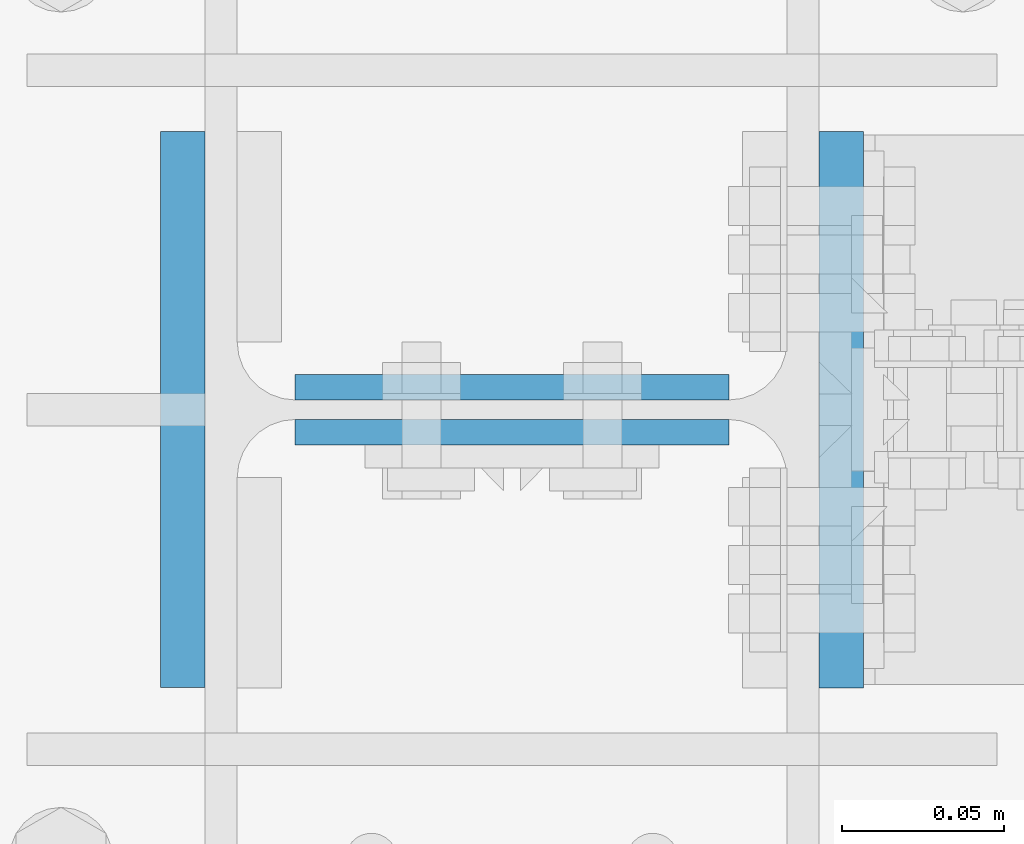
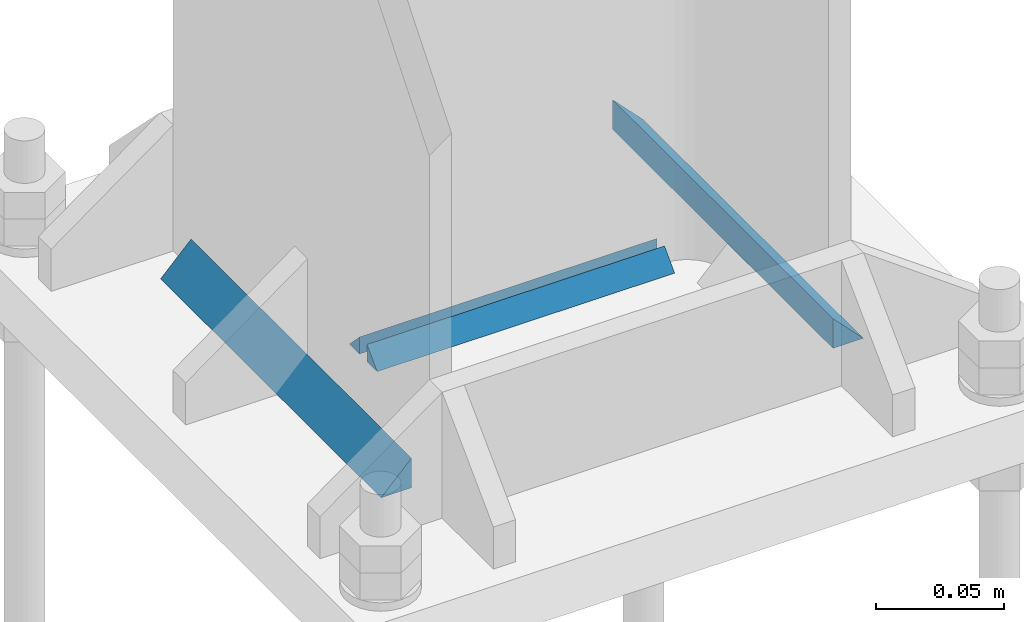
# One storey, part 49 of 251: 8 fasteners.
"""IFC4 building model written with IfcOpenShell, lengths in metres."""

import ifcopenshell
import ifcopenshell.guid

model = None  # the IFC model being written
_history = None  # IfcOwnerHistory: only IFC2X3 demands one
_inside = {}  # id of a spatial element -> (the spatial element, [elements in it])
_under = {}  # id of a project, library or spatial element -> (it, [spatial elements below it])
_declared = {}  # id of a project -> (the project, [libraries it declares])
_typed = {}  # id of a type object -> (the type object, [elements of that type])
_made_of = {}  # id of a material, layer set ... -> (it, [elements and type objects made of it])


def new_model(schema):
    """Start an empty IFC model of exactly this schema.

    Asked for "IFC4X3", IfcOpenShell would pick the latest addendum, in which some entities
    have other attributes; the version numbers below select the first issue.
    IFC2X3 requires an IfcOwnerHistory on every rooted entity: one is made here for all.
    """
    global model, _history
    if schema == "IFC4X3":
        model = ifcopenshell.file(schema_version=(4, 3, 0, 0))
    else:
        model = ifcopenshell.file(schema=schema)
    _inside.clear()
    _under.clear()
    _declared.clear()
    _typed.clear()
    _made_of.clear()
    _history = None
    if model.schema == "IFC2X3":
        org = make("IfcOrganization", Name="unknown")
        user = make(
            "IfcPersonAndOrganization",
            ThePerson=make("IfcPerson", FamilyName="unknown"),
            TheOrganization=org,
        )
        app = make(
            "IfcApplication",
            ApplicationDeveloper=org,
            Version="unknown",
            ApplicationFullName="unknown",
            ApplicationIdentifier="unknown",
        )
        _history = make(
            "IfcOwnerHistory",
            OwningUser=user,
            OwningApplication=app,
            ChangeAction="ADDED",
            CreationDate=0,
        )
    return model


def make(cls, **values):
    """One entity of the class cls with the attributes given. An attribute that is None is left unset."""
    return model.create_entity(
        cls, **{name: value for name, value in values.items() if value is not None}
    )


def rooted(cls, **values):
    """An entity with a GlobalId (a new one), such as an element, a storey or a relation."""
    return make(cls, GlobalId=ifcopenshell.guid.new(), OwnerHistory=_history, **values)


def si_unit(unit_type, name, prefix=None):
    """IfcSIUnit, for example si_unit("LENGTHUNIT", "METRE", prefix="MILLI")."""
    return make("IfcSIUnit", UnitType=unit_type, Prefix=prefix, Name=name)


def assignment(units):
    """IfcUnitAssignment: the units of a project."""
    return None if units is None else make("IfcUnitAssignment", Units=units)


def point(xyz):
    """IfcCartesianPoint."""
    return None if xyz is None else make("IfcCartesianPoint", Coordinates=xyz)


def direction(xyz):
    """IfcDirection."""
    return None if xyz is None else make("IfcDirection", DirectionRatios=xyz)


def frame(location, z_axis=None, x_axis=None):
    """IfcAxis2Placement3D, a coordinate frame: its origin and axes. An axis left out is left unset."""
    return make(
        "IfcAxis2Placement3D",
        Location=point(location),
        Axis=direction(z_axis),
        RefDirection=direction(x_axis),
    )


def origin_with_axes():
    """The frame at (0, 0, 0) with the z axis (0, 0, 1) and the x axis (1, 0, 0) written out."""
    return frame((0.0, 0.0, 0.0), z_axis=(0.0, 0.0, 1.0), x_axis=(1.0, 0.0, 0.0))


def place(relative_to, where):
    """IfcLocalPlacement: puts the frame where relative to a parent placement (None: the world)."""
    return make(
        "IfcLocalPlacement", PlacementRelTo=relative_to, RelativePlacement=where
    )


def context(
    kind, dimensions, precision=None, world=None, true_north=None, identifier=None
):
    """IfcGeometricRepresentationContext, for example the 3D "Model" context."""
    return make(
        "IfcGeometricRepresentationContext",
        ContextIdentifier=identifier,
        ContextType=kind,
        CoordinateSpaceDimension=dimensions,
        Precision=precision,
        WorldCoordinateSystem=world,
        TrueNorth=true_north,
    )


def project(units=None, contexts=None):
    """IfcProject with its units and contexts."""
    return rooted(
        "IfcProject",
        Name="project",
        RepresentationContexts=contexts,
        UnitsInContext=assignment(units),
    )


def spatial(cls, under=None, at=None, **own):
    """A site, building, storey or space (cls), placed at a placement, below another one or the project."""
    s = rooted(cls, ObjectPlacement=at, **own)
    if under is not None:
        _under.setdefault(under.id(), (under, []))[1].append(s)
    return s


def polyline(points):
    """IfcPolyline through the points."""
    return make("IfcPolyline", Points=[point(p) for p in points])


def outline(outer, holes=None, kind="AREA"):
    """IfcArbitraryClosedProfileDef: a profile drawn as a closed curve; with holes, ...WithVoids."""
    if holes is None:
        return make("IfcArbitraryClosedProfileDef", ProfileType=kind, OuterCurve=outer)
    return make(
        "IfcArbitraryProfileDefWithVoids",
        ProfileType=kind,
        OuterCurve=outer,
        InnerCurves=holes,
    )


def extrude(swept, where, along, depth):
    """IfcExtrudedAreaSolid: the profile swept, set in the frame where, extruded along a direction by depth."""
    return make(
        "IfcExtrudedAreaSolid",
        SweptArea=swept,
        Position=where,
        ExtrudedDirection=direction(along),
        Depth=depth,
    )


def shape(context_of_items, identifier, shape_type, items):
    """IfcShapeRepresentation: the items that make up one representation, for example the "Body"."""
    return make(
        "IfcShapeRepresentation",
        ContextOfItems=context_of_items,
        RepresentationIdentifier=identifier,
        RepresentationType=shape_type,
        Items=items,
    )


def made_of(thing, what):
    """Note that an element or type object is made of a material, layer set ...; save() writes the relation."""
    if what is not None:
        _made_of.setdefault(what.id(), (what, []))[1].append(thing)
    return thing


def type_object(cls, material=None, **own):
    """A type object (cls), such as IfcWallType, which elements share."""
    return made_of(rooted(cls, **own), material)


def element(
    cls,
    number,
    at=None,
    inside=None,
    cuts=None,
    type_object=None,
    material=None,
    context=None,
    identifier="Body",
    shape_type=None,
    held_by="IfcProductDefinitionShape",
    body=None,
    shapes=None,
    **own,
):
    """One element of the class cls, such as IfcWall. Its Tag is "e" and its number.

    at: its placement. inside: the storey or other place that contains it. cuts: it is an
    opening in that element (IfcRelVoidsElement). A single representation is given by context,
    identifier, shape_type and body (its items); several are given by shapes. held_by: the class
    of the entity that holds the representations. save() writes the other relations.
    """
    e = rooted(cls, Tag="e%d" % number, ObjectPlacement=at, **own)
    if body is not None:
        shapes = [shape(context, identifier, shape_type, body)]
    if shapes is not None:
        e.Representation = make(held_by, Representations=shapes)
    if inside is not None:
        _inside.setdefault(inside.id(), (inside, []))[1].append(e)
    if cuts is not None:
        rooted(
            "IfcRelVoidsElement", RelatingBuildingElement=cuts, RelatedOpeningElement=e
        )
    if type_object is not None:
        _typed.setdefault(type_object.id(), (type_object, []))[1].append(e)
    return made_of(e, material)


def aggregate(whole, parts):
    """IfcRelAggregates: a whole, such as a stair, and the parts it consists of."""
    return rooted("IfcRelAggregates", RelatingObject=whole, RelatedObjects=parts)


def save(model, path):
    """Write the relations noted so far, then the file.

    IfcRelAggregates (storeys below a building ...), IfcRelContainedInSpatialStructure (elements
    in a storey), IfcRelDefinesByType, IfcRelAssociatesMaterial and IfcRelDeclares: one each for
    every whole, place, type object, material and project.
    """
    for whole, parts in _under.values():
        aggregate(whole, parts)
    for where, things in _inside.values():
        rooted(
            "IfcRelContainedInSpatialStructure",
            RelatedElements=things,
            RelatingStructure=where,
        )
    for kind, things in _typed.values():
        rooted("IfcRelDefinesByType", RelatedObjects=things, RelatingType=kind)
    for what, things in _made_of.values():
        rooted("IfcRelAssociatesMaterial", RelatedObjects=things, RelatingMaterial=what)
    for by, libraries in _declared.values():
        rooted("IfcRelDeclares", RelatingContext=by, RelatedDefinitions=libraries)
    model.write(path)


model = new_model("IFC4")

# Units and contexts
model_context = context("Model", 3, precision=1e-05, world=origin_with_axes())
ifc_project = project(units=[si_unit("LENGTHUNIT", "METRE"), si_unit("AREAUNIT", "SQUARE_METRE"), si_unit("VOLUMEUNIT", "CUBIC_METRE"), si_unit("MASSUNIT", "GRAM", prefix="KILO"), si_unit("TIMEUNIT", "SECOND"), si_unit("PLANEANGLEUNIT", "RADIAN"), si_unit("SOLIDANGLEUNIT", "STERADIAN"), si_unit("THERMODYNAMICTEMPERATUREUNIT", "DEGREE_CELSIUS")], contexts=[model_context])

# Site, building, storey
placement_1 = place(None, origin_with_axes())
site = spatial("IfcSite", under=ifc_project, at=placement_1, Name="Italia", CompositionType="ELEMENT")
building = spatial("IfcBuilding", under=site, at=placement_1, Name="Deposito", CompositionType="ELEMENT")
storey = spatial("IfcBuildingStorey", under=building, at=placement_1, Name="Storey 0", CompositionType="ELEMENT", Elevation=0.0)

# Fasteners
fastener_type_1 = type_object("IfcFastenerType", Name="Collegamenti 0014_-001 0016_-054 0018_-056 0032_-002 0033_-058 0047_-003 0048_-060 0062_-004 0063_-005 0079_-008", PredefinedType="WELD")
placement_2 = place(placement_1, origin_with_axes())
fastener_1_placement = place(placement_2, origin_with_axes())
element("IfcFastener", 1, at=fastener_1_placement, inside=storey, type_object=fastener_type_1, Name="Collegamenti 0014_-001 0016_-054 0018_-056 0032_-002 0033_-058 0047_-003 0048_-060 0062_-004 0063_-005 0079_-008", context=model_context, shape_type="SweptSolid", body=[
    extrude(outline(polyline([(0.0, 0.0), (0.0137482, 0.0141734), (0.0137482, 0.0), (0.0, 0.0)])), frame((5.9413, 20.0861, 0.07495), z_axis=(0.0, -1.0, 0.0), x_axis=(1.0, 0.0, 0.0)), (0.0, 0.0, 1.0), 0.1721),
])
fastener_type_2 = type_object("IfcFastenerType", Name="Collegamenti 0014_-001 0016_-054 0018_-056 0032_-002 0033_-058 0047_-003 0048_-060 0062_-004 0063_-005 0079_-008", PredefinedType="WELD")
fastener_2_placement = place(placement_2, origin_with_axes())
element("IfcFastener", 2, at=fastener_2_placement, inside=storey, type_object=fastener_type_2, Name="Collegamenti 0014_-001 0016_-054 0018_-056 0032_-002 0033_-058 0047_-003 0048_-060 0062_-004 0063_-005 0079_-008", context=model_context, shape_type="SweptSolid", body=[
    extrude(outline(polyline([(0.0, 0.0), (0.0137482, 0.0141734), (0.0137482, 0.0), (0.0, 0.0)])), frame((6.1587, 19.9139, 0.07495), z_axis=(0.0, 1.0, 0.0), x_axis=(-1.0, 0.0, 0.0)), (0.0, 0.0, 1.0), 0.1721),
])
fastener_type_3 = type_object("IfcFastenerType", Name="Collegamenti 0014_-001 0016_-054 0018_-056 0032_-002 0033_-058 0047_-003 0048_-060 0062_-004 0063_-005 0079_-008", PredefinedType="WELD")
fastener_3_placement = place(placement_2, origin_with_axes())
element("IfcFastener", 3, at=fastener_3_placement, inside=storey, type_object=fastener_type_3, Name="Collegamenti 0014_-001 0016_-054 0018_-056 0032_-002 0033_-058 0047_-003 0048_-060 0062_-004 0063_-005 0079_-008", context=model_context, shape_type="SweptSolid", body=[
    extrude(outline(polyline([(0.0, 0.0), (0.00792694, 0.00817336), (0.00792694, 0.0), (0.0, 0.0)])), frame((6.11705, 20.0109, 0.07495), z_axis=(-1.0, 0.0, 0.0), x_axis=(0.0, -1.0, 0.0)), (0.0, 0.0, 1.0), 0.134098),
])
fastener_type_4 = type_object("IfcFastenerType", Name="Collegamenti 0014_-001 0016_-054 0018_-056 0032_-002 0033_-058 0047_-003 0048_-060 0062_-004 0063_-005 0079_-008", PredefinedType="WELD")
fastener_4_placement = place(placement_2, origin_with_axes())
element("IfcFastener", 4, at=fastener_4_placement, inside=storey, type_object=fastener_type_4, Name="Collegamenti 0014_-001 0016_-054 0018_-056 0032_-002 0033_-058 0047_-003 0048_-060 0062_-004 0063_-005 0079_-008", context=model_context, shape_type="SweptSolid", body=[
    extrude(outline(polyline([(0.0, 0.0), (0.00792694, 0.00817336), (0.00792694, 0.0), (0.0, 0.0)])), frame((5.98295, 19.9891, 0.07495), z_axis=(1.0, 0.0, 0.0), x_axis=(0.0, 1.0, 0.0)), (0.0, 0.0, 1.0), 0.134098),
])
fastener_type_5 = type_object("IfcFastenerType", Name="Collegamenti 0014_-001 0016_-054 0018_-056 0032_-002 0033_-058 0047_-003 0048_-060 0062_-004 0063_-005 0079_-008", PredefinedType="WELD")
fastener_5_placement = place(placement_2, origin_with_axes())
element("IfcFastener", 5, at=fastener_5_placement, inside=storey, type_object=fastener_type_5, Name="Collegamenti 0014_-001 0016_-054 0018_-056 0032_-002 0033_-058 0047_-003 0048_-060 0062_-004 0063_-005 0079_-008", context=model_context, shape_type="SweptSolid", body=[
    extrude(outline(polyline([(0.0, 0.0), (0.0137482, 0.0141734), (0.0137482, 0.0), (0.0, 0.0)])), frame((5.9413, 20.0861, 0.07495), z_axis=(0.0, -1.0, 0.0), x_axis=(1.0, 0.0, 0.0)), (0.0, 0.0, 1.0), 0.1721),
])
fastener_type_6 = type_object("IfcFastenerType", Name="Collegamenti 0014_-001 0016_-054 0018_-056 0032_-002 0033_-058 0047_-003 0048_-060 0062_-004 0063_-005 0079_-008", PredefinedType="WELD")
fastener_6_placement = place(placement_2, origin_with_axes())
element("IfcFastener", 6, at=fastener_6_placement, inside=storey, type_object=fastener_type_6, Name="Collegamenti 0014_-001 0016_-054 0018_-056 0032_-002 0033_-058 0047_-003 0048_-060 0062_-004 0063_-005 0079_-008", context=model_context, shape_type="SweptSolid", body=[
    extrude(outline(polyline([(0.0, 0.0), (0.0137482, 0.0141734), (0.0137482, 0.0), (0.0, 0.0)])), frame((6.1587, 19.9139, 0.07495), z_axis=(0.0, 1.0, 0.0), x_axis=(-1.0, 0.0, 0.0)), (0.0, 0.0, 1.0), 0.1721),
])
fastener_type_7 = type_object("IfcFastenerType", Name="Collegamenti 0014_-001 0016_-054 0018_-056 0032_-002 0033_-058 0047_-003 0048_-060 0062_-004 0063_-005 0079_-008", PredefinedType="WELD")
fastener_7_placement = place(placement_2, origin_with_axes())
element("IfcFastener", 7, at=fastener_7_placement, inside=storey, type_object=fastener_type_7, Name="Collegamenti 0014_-001 0016_-054 0018_-056 0032_-002 0033_-058 0047_-003 0048_-060 0062_-004 0063_-005 0079_-008", context=model_context, shape_type="SweptSolid", body=[
    extrude(outline(polyline([(0.0, 0.0), (0.00792694, 0.00817336), (0.00792694, 0.0), (0.0, 0.0)])), frame((6.11705, 20.0109, 0.07495), z_axis=(-1.0, 0.0, 0.0), x_axis=(0.0, -1.0, 0.0)), (0.0, 0.0, 1.0), 0.134098),
])
fastener_type_8 = type_object("IfcFastenerType", Name="Collegamenti 0014_-001 0016_-054 0018_-056 0032_-002 0033_-058 0047_-003 0048_-060 0062_-004 0063_-005 0079_-008", PredefinedType="WELD")
fastener_8_placement = place(placement_2, origin_with_axes())
element("IfcFastener", 8, at=fastener_8_placement, inside=storey, type_object=fastener_type_8, Name="Collegamenti 0014_-001 0016_-054 0018_-056 0032_-002 0033_-058 0047_-003 0048_-060 0062_-004 0063_-005 0079_-008", context=model_context, shape_type="SweptSolid", body=[
    extrude(outline(polyline([(0.0, 0.0), (0.00792694, 0.00817336), (0.00792694, 0.0), (0.0, 0.0)])), frame((5.98295, 19.9891, 0.07495), z_axis=(1.0, 0.0, 0.0), x_axis=(0.0, 1.0, 0.0)), (0.0, 0.0, 1.0), 0.134098),
])

save(model, "model.ifc")
